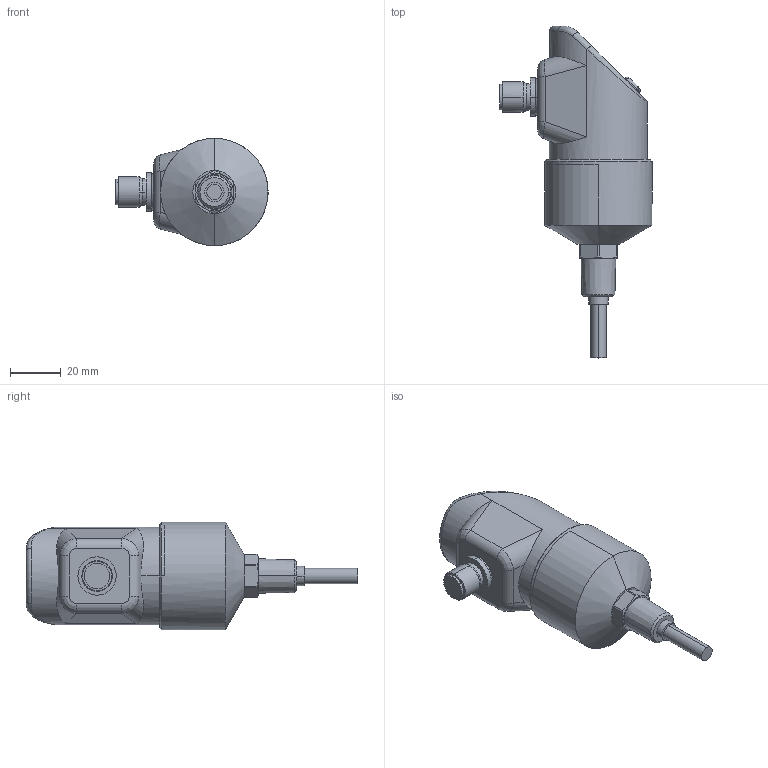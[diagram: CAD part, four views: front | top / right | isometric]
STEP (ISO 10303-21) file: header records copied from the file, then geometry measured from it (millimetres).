
FILE_DESCRIPTION((''),'2;1');
FILE_NAME('83XE-DX1BA1A3D4','2011-02-28T',('i00400514'),('RAND'),'PRO/ENGINEER BY PARAMETRIC TECHNOLOGY CORPORATION, 2009380','PRO/ENGINEER BY PARAMETRIC TECHNOLOGY CORPORATION, 2009380','');
FILE_SCHEMA(('CONFIG_CONTROL_DESIGN'));
Length unit declared in the file: millimetre
Products named in the file (1): 83XE-DX1BA1A3D4
Bounding box: 59.95 x 130.8 x 42.3 mm (x, y, z)
Volume: 102585.7 mm3; surface area: 14382.9 mm2
Topology: 1 solids, 1 shells, 108 faces, 285 edges, 188 vertices
Faces by surface type: cylinder 41, plane 32, cone 18, bspline 13, torus 4
Entity records: 4916 total; most frequent: CARTESIAN_POINT 2205, ORIENTED_EDGE 570, DIRECTION 562, EDGE_CURVE 285, AXIS2_PLACEMENT_3D 237, VERTEX_POINT 188, CIRCLE 142, EDGE_LOOP 117
